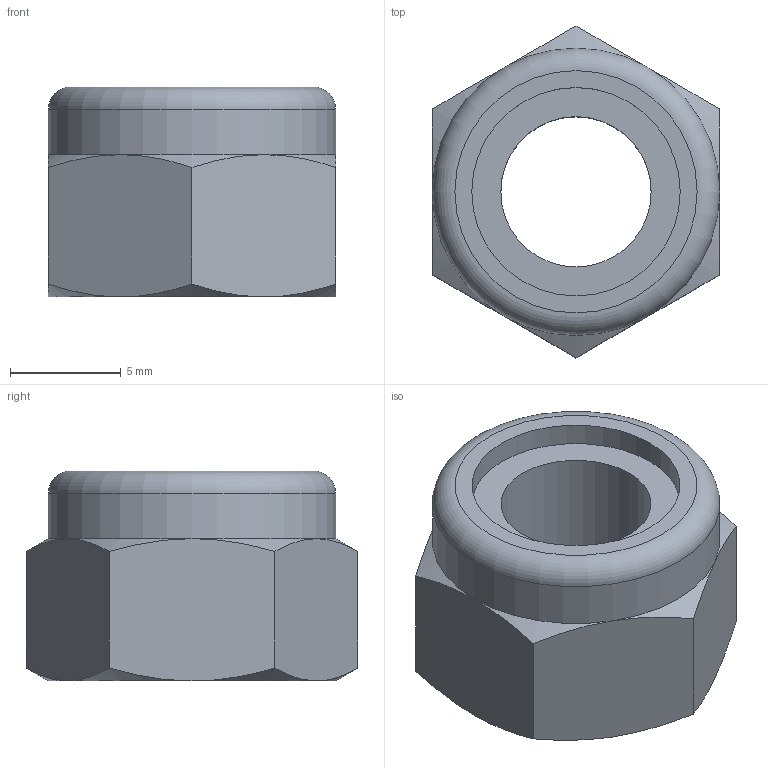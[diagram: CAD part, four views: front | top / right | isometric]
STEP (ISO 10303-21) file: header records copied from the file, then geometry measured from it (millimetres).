
FILE_DESCRIPTION (( 'STEP AP203' ), '1' );
FILE_NAME ('Écrou hexagonal autofreiné DIN EN ISO 7040 - M8.STEP', '2026-06-24T07:29:48', ( '' ), ( '' ), 'SwSTEP 2.0', 'SolidWorks 2024', '' );
FILE_SCHEMA (( 'CONFIG_CONTROL_DESIGN' ));
Length unit declared in the file: millimetre
Products named in the file (1): Écrou hexagonal autofreiné DIN EN ISO 7040 - M8_DIN EN ISO 7040 - M8 - C
Bounding box: 13 x 15.01 x 9.5 mm (x, y, z)
Volume: 952.7 mm3; surface area: 808.6 mm2
Topology: 1 solids, 1 shells, 27 faces, 57 edges, 33 vertices
Faces by surface type: cone 13, plane 9, cylinder 4, torus 1
Full cylindrical faces by diameter (mm): 6.8 x1, 8 x1, 9.429 x1, 13 x1
Entity records: 839 total; most frequent: CARTESIAN_POINT 246, DIRECTION 102, ORIENTED_EDGE 100, EDGE_CURVE 50, AXIS2_PLACEMENT_3D 48, EDGE_LOOP 36, FACE_OUTER_BOUND 32, VERTEX_POINT 32
